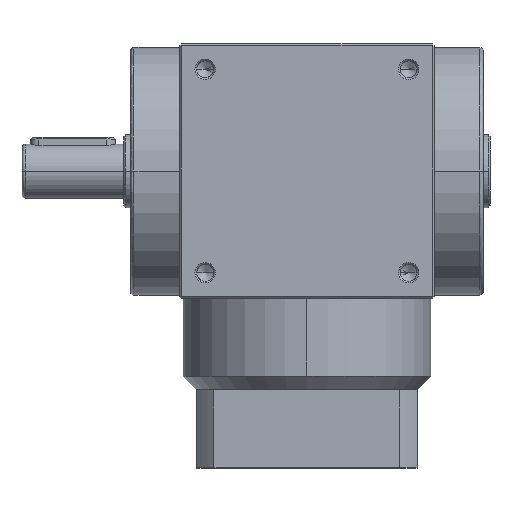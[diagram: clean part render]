
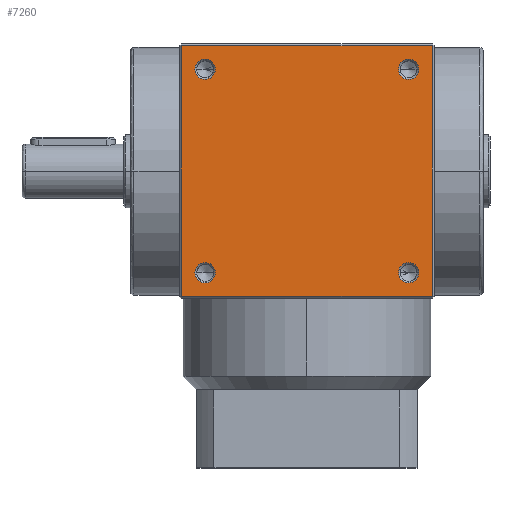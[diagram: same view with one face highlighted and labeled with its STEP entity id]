
A CAD part, top view. The second image highlights one B-rep face of the part: STEP entity #7260.
In plain terms, the highlighted planar face has unit normal (0, 0, 1).
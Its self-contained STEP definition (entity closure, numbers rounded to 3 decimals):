
#113 = ORIENTED_EDGE ( 'NONE', *, *, #1567, .F. ) ;
#204 = CARTESIAN_POINT ( 'NONE',  ( 30., -30., 37.5 ) ) ;
#320 = CARTESIAN_POINT ( 'NONE',  ( 30., 30., 37.5 ) ) ;
#529 = CARTESIAN_POINT ( 'NONE',  ( 27., 30., 37.5 ) ) ;
#602 = CIRCLE ( 'NONE', #3740, 3. ) ;
#658 = EDGE_LOOP ( 'NONE', ( #4440, #8753 ) ) ;
#678 = VERTEX_POINT ( 'NONE', #6322 ) ;
#858 = DIRECTION ( 'NONE',  ( 0., 0., 1. ) ) ;
#887 = PLANE ( 'NONE',  #1026 ) ;
#938 = DIRECTION ( 'NONE',  ( 1., 0., 0. ) ) ;
#969 = EDGE_CURVE ( 'NONE', #678, #6961, #3553, .T. ) ;
#1026 = AXIS2_PLACEMENT_3D ( 'NONE', #5159, #2343, #4411 ) ;
#1051 = CARTESIAN_POINT ( 'NONE',  ( 30., -30., 37.5 ) ) ;
#1064 = EDGE_CURVE ( 'NONE', #7157, #2348, #1415, .T. ) ;
#1085 = LINE ( 'NONE', #6162, #8758 ) ;
#1130 = EDGE_CURVE ( 'NONE', #2348, #7157, #2927, .T. ) ;
#1136 = EDGE_LOOP ( 'NONE', ( #3960, #1665 ) ) ;
#1142 = CARTESIAN_POINT ( 'NONE',  ( -30., 30., 37.5 ) ) ;
#1198 = DIRECTION ( 'NONE',  ( 0., 0., 1. ) ) ;
#1303 = CIRCLE ( 'NONE', #1911, 3. ) ;
#1305 = DIRECTION ( 'NONE',  ( 0., 0., 1. ) ) ;
#1415 = CIRCLE ( 'NONE', #2013, 3. ) ;
#1515 = DIRECTION ( 'NONE',  ( 1., 0., 0. ) ) ;
#1521 = CARTESIAN_POINT ( 'NONE',  ( -30., -30., 37.5 ) ) ;
#1554 = CARTESIAN_POINT ( 'NONE',  ( 30., 30., 37.5 ) ) ;
#1567 = EDGE_CURVE ( 'NONE', #7652, #6961, #5026, .T. ) ;
#1569 = VERTEX_POINT ( 'NONE', #529 ) ;
#1634 = FACE_BOUND ( 'NONE', #1136, .T. ) ;
#1665 = ORIENTED_EDGE ( 'NONE', *, *, #6172, .F. ) ;
#1851 = DIRECTION ( 'NONE',  ( 0., 0., 1. ) ) ;
#1872 = EDGE_CURVE ( 'NONE', #8749, #6223, #2848, .T. ) ;
#1911 = AXIS2_PLACEMENT_3D ( 'NONE', #1142, #1198, #4080 ) ;
#2013 = AXIS2_PLACEMENT_3D ( 'NONE', #1521, #3875, #5137 ) ;
#2053 = EDGE_CURVE ( 'NONE', #8097, #1569, #602, .T. ) ;
#2200 = CARTESIAN_POINT ( 'NONE',  ( -27., -30., 37.5 ) ) ;
#2299 = FACE_BOUND ( 'NONE', #7556, .T. ) ;
#2343 = DIRECTION ( 'NONE',  ( 0., 0., -1. ) ) ;
#2348 = VERTEX_POINT ( 'NONE', #2200 ) ;
#2370 = CIRCLE ( 'NONE', #7773, 3. ) ;
#2427 = CARTESIAN_POINT ( 'NONE',  ( -27., 30., 37.5 ) ) ;
#2829 = VECTOR ( 'NONE', #3078, 1000. ) ;
#2848 = CIRCLE ( 'NONE', #2997, 3. ) ;
#2921 = EDGE_CURVE ( 'NONE', #3476, #7652, #8861, .T. ) ;
#2927 = CIRCLE ( 'NONE', #7888, 3. ) ;
#2969 = ORIENTED_EDGE ( 'NONE', *, *, #6000, .F. ) ;
#2970 = FACE_BOUND ( 'NONE', #4083, .T. ) ;
#2997 = AXIS2_PLACEMENT_3D ( 'NONE', #6419, #1305, #8408 ) ;
#3078 = DIRECTION ( 'NONE',  ( -1., 0., 0. ) ) ;
#3180 = DIRECTION ( 'NONE',  ( 0., 0., 1. ) ) ;
#3304 = DIRECTION ( 'NONE',  ( 0., 0., 1. ) ) ;
#3476 = VERTEX_POINT ( 'NONE', #5257 ) ;
#3553 = LINE ( 'NONE', #4260, #3813 ) ;
#3740 = AXIS2_PLACEMENT_3D ( 'NONE', #320, #3180, #6774 ) ;
#3813 = VECTOR ( 'NONE', #9293, 1000. ) ;
#3875 = DIRECTION ( 'NONE',  ( 0., 0., 1. ) ) ;
#3930 = DIRECTION ( 'NONE',  ( 1., 0., 0. ) ) ;
#3960 = ORIENTED_EDGE ( 'NONE', *, *, #2053, .F. ) ;
#4080 = DIRECTION ( 'NONE',  ( 1., 0., 0. ) ) ;
#4083 = EDGE_LOOP ( 'NONE', ( #7185, #5920 ) ) ;
#4107 = CARTESIAN_POINT ( 'NONE',  ( -37., 0., 37.5 ) ) ;
#4260 = CARTESIAN_POINT ( 'NONE',  ( 0., 37., 37.5 ) ) ;
#4411 = DIRECTION ( 'NONE',  ( -1., 0., 0. ) ) ;
#4440 = ORIENTED_EDGE ( 'NONE', *, *, #7487, .F. ) ;
#4723 = ORIENTED_EDGE ( 'NONE', *, *, #8077, .F. ) ;
#5026 = LINE ( 'NONE', #4107, #8788 ) ;
#5087 = VERTEX_POINT ( 'NONE', #8575 ) ;
#5092 = AXIS2_PLACEMENT_3D ( 'NONE', #204, #5827, #1515 ) ;
#5137 = DIRECTION ( 'NONE',  ( 1., 0., 0. ) ) ;
#5159 = CARTESIAN_POINT ( 'NONE',  ( 0., 0., 37.5 ) ) ;
#5214 = CARTESIAN_POINT ( 'NONE',  ( 33., -30., 37.5 ) ) ;
#5233 = CARTESIAN_POINT ( 'NONE',  ( 0., -37., 37.5 ) ) ;
#5257 = CARTESIAN_POINT ( 'NONE',  ( 37., -37., 37.5 ) ) ;
#5293 = VERTEX_POINT ( 'NONE', #5214 ) ;
#5438 = ORIENTED_EDGE ( 'NONE', *, *, #969, .T. ) ;
#5827 = DIRECTION ( 'NONE',  ( 0., 0., 1. ) ) ;
#5920 = ORIENTED_EDGE ( 'NONE', *, *, #1064, .F. ) ;
#6000 = EDGE_CURVE ( 'NONE', #6223, #8749, #1303, .T. ) ;
#6110 = DIRECTION ( 'NONE',  ( 0., -1., 0. ) ) ;
#6162 = CARTESIAN_POINT ( 'NONE',  ( 37., 0., 37.5 ) ) ;
#6172 = EDGE_CURVE ( 'NONE', #1569, #8097, #7919, .T. ) ;
#6223 = VERTEX_POINT ( 'NONE', #6717 ) ;
#6266 = EDGE_LOOP ( 'NONE', ( #6476, #4723, #5438, #113 ) ) ;
#6322 = CARTESIAN_POINT ( 'NONE',  ( 37., 37., 37.5 ) ) ;
#6419 = CARTESIAN_POINT ( 'NONE',  ( -30., 30., 37.5 ) ) ;
#6476 = ORIENTED_EDGE ( 'NONE', *, *, #2921, .F. ) ;
#6635 = EDGE_CURVE ( 'NONE', #5087, #5293, #2370, .T. ) ;
#6717 = CARTESIAN_POINT ( 'NONE',  ( -33., 30., 37.5 ) ) ;
#6774 = DIRECTION ( 'NONE',  ( 1., 0., 0. ) ) ;
#6858 = CARTESIAN_POINT ( 'NONE',  ( 33., 30., 37.5 ) ) ;
#6881 = CIRCLE ( 'NONE', #5092, 3. ) ;
#6941 = DIRECTION ( 'NONE',  ( 0., 1., 0. ) ) ;
#6961 = VERTEX_POINT ( 'NONE', #8047 ) ;
#7121 = CARTESIAN_POINT ( 'NONE',  ( -37., -37., 37.5 ) ) ;
#7157 = VERTEX_POINT ( 'NONE', #7907 ) ;
#7185 = ORIENTED_EDGE ( 'NONE', *, *, #1130, .F. ) ;
#7260 = ADVANCED_FACE ( 'NONE', ( #7264, #2299, #1634, #2970, #8795 ), #887, .F. ) ;
#7264 = FACE_OUTER_BOUND ( 'NONE', #6266, .T. ) ;
#7384 = ORIENTED_EDGE ( 'NONE', *, *, #1872, .F. ) ;
#7487 = EDGE_CURVE ( 'NONE', #5293, #5087, #6881, .T. ) ;
#7556 = EDGE_LOOP ( 'NONE', ( #7384, #2969 ) ) ;
#7652 = VERTEX_POINT ( 'NONE', #7121 ) ;
#7773 = AXIS2_PLACEMENT_3D ( 'NONE', #1051, #1851, #3930 ) ;
#7888 = AXIS2_PLACEMENT_3D ( 'NONE', #9047, #3304, #8391 ) ;
#7907 = CARTESIAN_POINT ( 'NONE',  ( -33., -30., 37.5 ) ) ;
#7919 = CIRCLE ( 'NONE', #9114, 3. ) ;
#8047 = CARTESIAN_POINT ( 'NONE',  ( -37., 37., 37.5 ) ) ;
#8077 = EDGE_CURVE ( 'NONE', #678, #3476, #1085, .T. ) ;
#8097 = VERTEX_POINT ( 'NONE', #6858 ) ;
#8391 = DIRECTION ( 'NONE',  ( 1., 0., 0. ) ) ;
#8408 = DIRECTION ( 'NONE',  ( 1., 0., 0. ) ) ;
#8575 = CARTESIAN_POINT ( 'NONE',  ( 27., -30., 37.5 ) ) ;
#8749 = VERTEX_POINT ( 'NONE', #2427 ) ;
#8753 = ORIENTED_EDGE ( 'NONE', *, *, #6635, .F. ) ;
#8758 = VECTOR ( 'NONE', #6110, 1000. ) ;
#8788 = VECTOR ( 'NONE', #6941, 1000. ) ;
#8795 = FACE_BOUND ( 'NONE', #658, .T. ) ;
#8861 = LINE ( 'NONE', #5233, #2829 ) ;
#9047 = CARTESIAN_POINT ( 'NONE',  ( -30., -30., 37.5 ) ) ;
#9114 = AXIS2_PLACEMENT_3D ( 'NONE', #1554, #858, #938 ) ;
#9293 = DIRECTION ( 'NONE',  ( -1., 0., 0. ) ) ;
